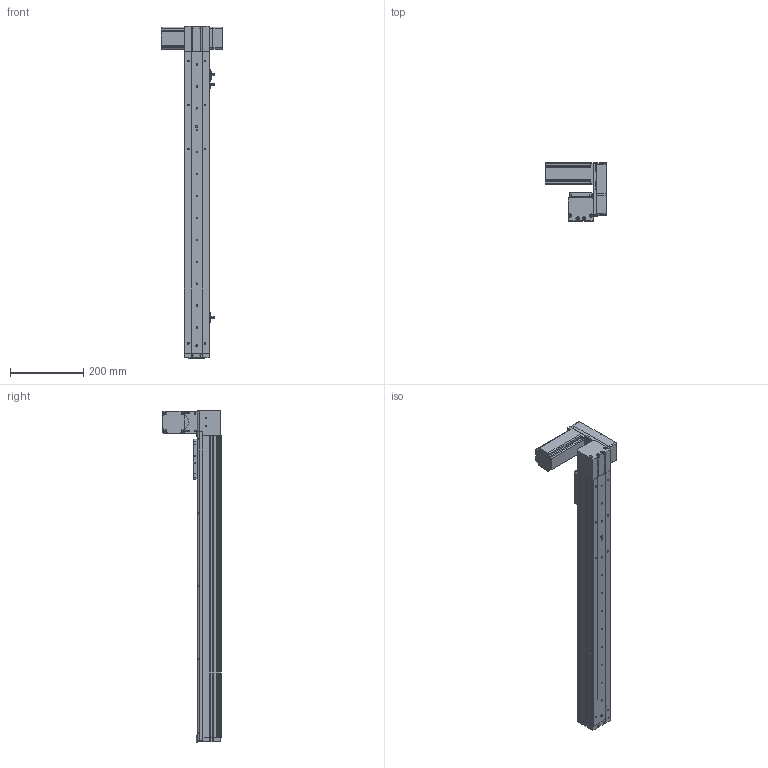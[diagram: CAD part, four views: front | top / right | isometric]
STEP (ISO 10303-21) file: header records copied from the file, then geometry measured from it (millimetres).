
FILE_DESCRIPTION (( 'STEP AP214' ), '1' );
FILE_NAME ('KSD68BS-S650-MLU-CR.STEP', '2019-11-07T07:29:46', ( '微软用户' ), ( '微软中国' ), 'SwSTEP 2.0', 'SolidWorks 2014', '' );
FILE_SCHEMA (( 'AUTOMOTIVE_DESIGN' ));
Length unit declared in the file: millimetre
Products named in the file (14): 悵誘欶奻狟殏; 68宽马达安装板连板上折同步带; 感应片68宽全封闭; U倰嫖萇EEㄜSX672; 台达ECMA－C20604AS伺服电机（400W); KSD68BS 650行程底板全封闭; KSD68BS-S650-MLU-CR; KSD68BS 650行程盖板全封闭; 68遵裔啣揤啣1; 68宽单导轨全封闭丝杆传动安装板1防护罩; KSD68BS 650行程侧板全封闭; 68宽单导轨全封闭同步带端板; 68单导轨全封闭同步带电机座左; 68单导轨全封闭同步带安装板
Assembly tree (17 placements, depth 2):
  KSD68BS-S650-MLU-CR
    KSD68BS 650行程底板全封闭
    台达ECMA－C20604AS伺服电机（400W)
    U倰嫖萇EEㄜSX672  x3
    感应片68宽全封闭
    68宽马达安装板连板上折同步带
    悵誘欶奻狟殏
    68单导轨全封闭同步带安装板
    68单导轨全封闭同步带电机座左
    68宽单导轨全封闭同步带端板
    KSD68BS 650行程侧板全封闭  x2
    68宽单导轨全封闭丝杆传动安装板1防护罩
    68遵裔啣揤啣1  x2
    KSD68BS 650行程盖板全封闭
Bounding box: 167.2 x 159.5 x 908.1 mm (x, y, z)
Volume: 2065790.1 mm3; surface area: 748876 mm2
Topology: 18 solids, 18 shells, 1405 faces, 3939 edges, 2534 vertices
Faces by surface type: cylinder 644, plane 625, cone 136
Entity records: 43339 total; most frequent: CARTESIAN_POINT 7287, DIRECTION 6544, ORIENTED_EDGE 6254, EDGE_CURVE 3127, AXIS2_PLACEMENT_3D 2335, VERTEX_POINT 2052, VECTOR 1874, LINE 1874
